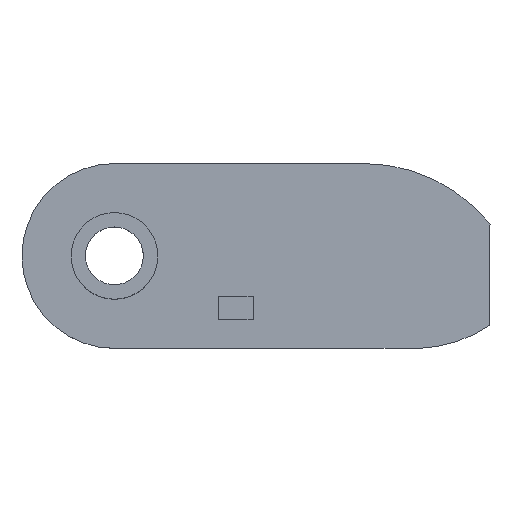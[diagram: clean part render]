
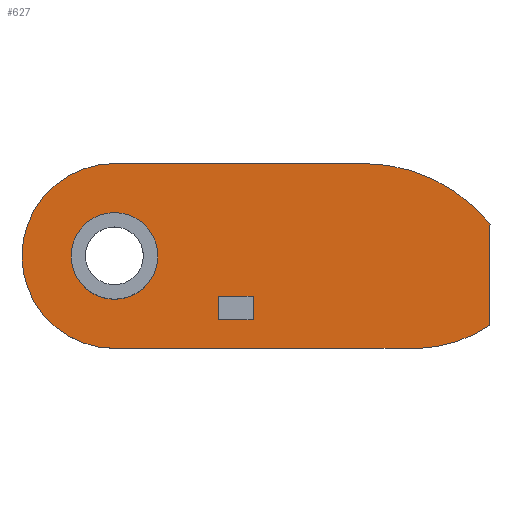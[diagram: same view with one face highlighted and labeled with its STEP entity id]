
A CAD part, top view. The second image highlights one B-rep face of the part: STEP entity #627.
In plain terms, the highlighted planar face has unit normal (0, 0, 1).
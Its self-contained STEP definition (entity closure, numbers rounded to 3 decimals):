
#12 = ORIENTED_EDGE ( 'NONE', *, *, #232, .T. ) ;
#26 = CIRCLE ( 'NONE', #324, 24. ) ;
#27 = VERTEX_POINT ( 'NONE', #42 ) ;
#33 = EDGE_CURVE ( 'NONE', #27, #533, #443, .T. ) ;
#37 = EDGE_CURVE ( 'NONE', #109, #243, #26, .T. ) ;
#42 = CARTESIAN_POINT ( 'NONE',  ( 19.366, 15.879, 5. ) ) ;
#44 = CARTESIAN_POINT ( 'NONE',  ( -23.777, -0.121, 5. ) ) ;
#45 = VECTOR ( 'NONE', #169, 1000. ) ;
#61 = ORIENTED_EDGE ( 'NONE', *, *, #33, .T. ) ;
#78 = VECTOR ( 'NONE', #245, 1000. ) ;
#82 = ORIENTED_EDGE ( 'NONE', *, *, #108, .T. ) ;
#90 = CIRCLE ( 'NONE', #456, 16. ) ;
#94 = CARTESIAN_POINT ( 'NONE',  ( 0.223, -7.121, 5. ) ) ;
#99 = VECTOR ( 'NONE', #288, 1000. ) ;
#108 = EDGE_CURVE ( 'NONE', #243, #165, #514, .T. ) ;
#109 = VERTEX_POINT ( 'NONE', #455 ) ;
#118 = DIRECTION ( 'NONE',  ( 1., 0., 0. ) ) ;
#127 = ORIENTED_EDGE ( 'NONE', *, *, #411, .T. ) ;
#128 = FACE_BOUND ( 'NONE', #133, .T. ) ;
#129 = VERTEX_POINT ( 'NONE', #265 ) ;
#133 = EDGE_LOOP ( 'NONE', ( #576 ) ) ;
#149 = DIRECTION ( 'NONE',  ( 0., 0., 1. ) ) ;
#165 = VERTEX_POINT ( 'NONE', #212 ) ;
#169 = DIRECTION ( 'NONE',  ( 0., 1., 0. ) ) ;
#171 = EDGE_CURVE ( 'NONE', #564, #109, #356, .T. ) ;
#178 = LINE ( 'NONE', #370, #415 ) ;
#183 = VERTEX_POINT ( 'NONE', #507 ) ;
#184 = EDGE_CURVE ( 'NONE', #585, #598, #611, .T. ) ;
#202 = DIRECTION ( 'NONE',  ( 1., 0., 0. ) ) ;
#211 = CARTESIAN_POINT ( 'NONE',  ( -23.777, -0.121, 5. ) ) ;
#212 = CARTESIAN_POINT ( 'NONE',  ( 41.223, 5.379, 5. ) ) ;
#217 = DIRECTION ( 'NONE',  ( -1., 0., 0. ) ) ;
#228 = LINE ( 'NONE', #372, #99 ) ;
#229 = VERTEX_POINT ( 'NONE', #434 ) ;
#232 = EDGE_CURVE ( 'NONE', #165, #27, #601, .T. ) ;
#243 = VERTEX_POINT ( 'NONE', #261 ) ;
#245 = DIRECTION ( 'NONE',  ( -1., 0., 0. ) ) ;
#257 = LINE ( 'NONE', #94, #386 ) ;
#259 = CARTESIAN_POINT ( 'NONE',  ( -23.777, -0.121, 5. ) ) ;
#261 = CARTESIAN_POINT ( 'NONE',  ( 41.223, -12.121, 5. ) ) ;
#263 = PLANE ( 'NONE',  #549 ) ;
#265 = CARTESIAN_POINT ( 'NONE',  ( 0.223, -7.121, 5. ) ) ;
#286 = ORIENTED_EDGE ( 'NONE', *, *, #450, .F. ) ;
#288 = DIRECTION ( 'NONE',  ( 0., -1., 0. ) ) ;
#294 = VECTOR ( 'NONE', #412, 1000. ) ;
#323 = DIRECTION ( 'NONE',  ( 0., 0., 1. ) ) ;
#324 = AXIS2_PLACEMENT_3D ( 'NONE', #587, #452, #340 ) ;
#330 = ORIENTED_EDGE ( 'NONE', *, *, #342, .F. ) ;
#333 = AXIS2_PLACEMENT_3D ( 'NONE', #44, #149, #202 ) ;
#340 = DIRECTION ( 'NONE',  ( 1., 0., 0. ) ) ;
#341 = AXIS2_PLACEMENT_3D ( 'NONE', #472, #405, #354 ) ;
#342 = EDGE_CURVE ( 'NONE', #183, #585, #228, .T. ) ;
#354 = DIRECTION ( 'NONE',  ( 1., 0., 0. ) ) ;
#356 = LINE ( 'NONE', #614, #539 ) ;
#359 = CIRCLE ( 'NONE', #333, 7.5 ) ;
#366 = ORIENTED_EDGE ( 'NONE', *, *, #593, .F. ) ;
#370 = CARTESIAN_POINT ( 'NONE',  ( -5.777, -7.121, 5. ) ) ;
#372 = CARTESIAN_POINT ( 'NONE',  ( -5.777, -7.121, 5. ) ) ;
#386 = VECTOR ( 'NONE', #448, 1000. ) ;
#390 = ORIENTED_EDGE ( 'NONE', *, *, #37, .T. ) ;
#393 = EDGE_LOOP ( 'NONE', ( #127, #476, #390, #82, #12, #61 ) ) ;
#400 = CARTESIAN_POINT ( 'NONE',  ( -23.777, 15.879, 5. ) ) ;
#405 = DIRECTION ( 'NONE',  ( 0., 0., 1. ) ) ;
#411 = EDGE_CURVE ( 'NONE', #533, #564, #90, .T. ) ;
#412 = DIRECTION ( 'NONE',  ( 1., 0., 0. ) ) ;
#415 = VECTOR ( 'NONE', #217, 1000. ) ;
#434 = CARTESIAN_POINT ( 'NONE',  ( -16.277, -0.121, 5. ) ) ;
#436 = ORIENTED_EDGE ( 'NONE', *, *, #184, .F. ) ;
#441 = EDGE_LOOP ( 'NONE', ( #436, #330, #366, #286 ) ) ;
#443 = LINE ( 'NONE', #594, #78 ) ;
#448 = DIRECTION ( 'NONE',  ( 0., 1., 0. ) ) ;
#450 = EDGE_CURVE ( 'NONE', #598, #129, #257, .T. ) ;
#452 = DIRECTION ( 'NONE',  ( 0., 0., 1. ) ) ;
#453 = DIRECTION ( 'NONE',  ( 0., 0., 1. ) ) ;
#455 = CARTESIAN_POINT ( 'NONE',  ( 28.773, -16.121, 5. ) ) ;
#456 = AXIS2_PLACEMENT_3D ( 'NONE', #259, #453, #541 ) ;
#458 = FACE_OUTER_BOUND ( 'NONE', #393, .T. ) ;
#460 = CARTESIAN_POINT ( 'NONE',  ( 41.223, 5.379, 5. ) ) ;
#468 = CARTESIAN_POINT ( 'NONE',  ( -5.777, -11.121, 5. ) ) ;
#472 = CARTESIAN_POINT ( 'NONE',  ( 19.366, -12.121, 5. ) ) ;
#476 = ORIENTED_EDGE ( 'NONE', *, *, #171, .T. ) ;
#507 = CARTESIAN_POINT ( 'NONE',  ( -5.777, -7.121, 5. ) ) ;
#510 = FACE_BOUND ( 'NONE', #441, .T. ) ;
#512 = CARTESIAN_POINT ( 'NONE',  ( 0.223, -11.121, 5. ) ) ;
#514 = LINE ( 'NONE', #460, #45 ) ;
#521 = DIRECTION ( 'NONE',  ( 1., 0., 0. ) ) ;
#527 = EDGE_CURVE ( 'NONE', #229, #229, #359, .T. ) ;
#533 = VERTEX_POINT ( 'NONE', #400 ) ;
#539 = VECTOR ( 'NONE', #118, 1000. ) ;
#541 = DIRECTION ( 'NONE',  ( 1., 0., 0. ) ) ;
#549 = AXIS2_PLACEMENT_3D ( 'NONE', #211, #323, #521 ) ;
#564 = VERTEX_POINT ( 'NONE', #568 ) ;
#568 = CARTESIAN_POINT ( 'NONE',  ( -23.777, -16.121, 5. ) ) ;
#573 = CARTESIAN_POINT ( 'NONE',  ( -5.777, -11.121, 5. ) ) ;
#576 = ORIENTED_EDGE ( 'NONE', *, *, #527, .F. ) ;
#585 = VERTEX_POINT ( 'NONE', #573 ) ;
#587 = CARTESIAN_POINT ( 'NONE',  ( 27.934, 7.865, 5. ) ) ;
#593 = EDGE_CURVE ( 'NONE', #129, #183, #178, .T. ) ;
#594 = CARTESIAN_POINT ( 'NONE',  ( -23.777, 15.879, 5. ) ) ;
#598 = VERTEX_POINT ( 'NONE', #512 ) ;
#601 = CIRCLE ( 'NONE', #341, 28. ) ;
#611 = LINE ( 'NONE', #468, #294 ) ;
#614 = CARTESIAN_POINT ( 'NONE',  ( 28.773, -16.121, 5. ) ) ;
#627 = ADVANCED_FACE ( 'NONE', ( #458, #128, #510 ), #263, .T. ) ;
